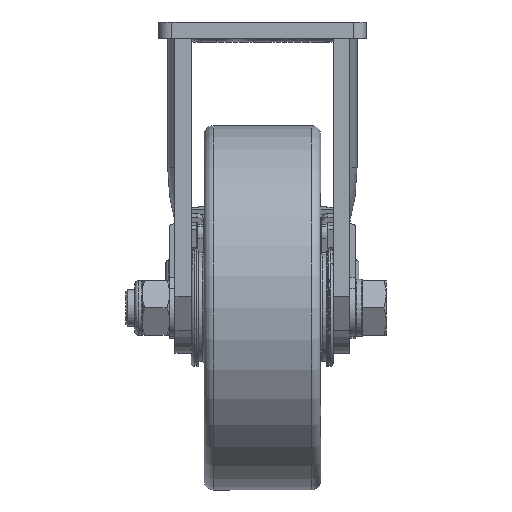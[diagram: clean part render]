
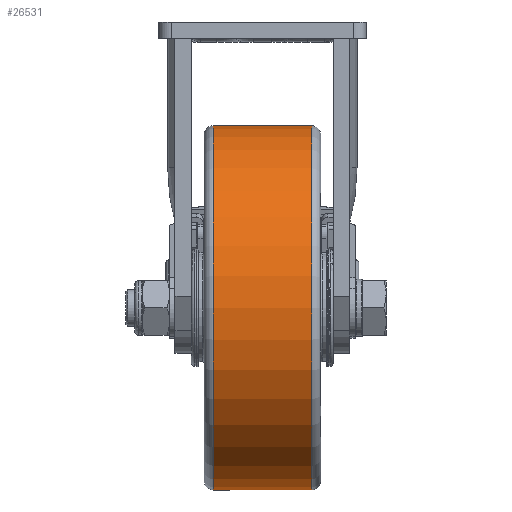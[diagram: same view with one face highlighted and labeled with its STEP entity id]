
A CAD part, left-side view. The second image highlights one B-rep face of the part: STEP entity #26531.
In plain terms, the highlighted cylindrical face has radius 100 mm (diameter 200 mm), a full revolution.
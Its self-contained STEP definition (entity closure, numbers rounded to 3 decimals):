
#6425=FACE_BOUND('',#8578,.T.);
#6886=FACE_OUTER_BOUND('',#8577,.T.);
#8577=EDGE_LOOP('',(#19082));
#8578=EDGE_LOOP('',(#19083));
#10315=CIRCLE('',#28506,100.);
#10316=CIRCLE('',#28508,100.);
#11420=VERTEX_POINT('',#40151);
#11421=VERTEX_POINT('',#40154);
#14315=EDGE_CURVE('',#11420,#11420,#10315,.T.);
#14316=EDGE_CURVE('',#11421,#11421,#10316,.T.);
#19082=ORIENTED_EDGE('',*,*,#14315,.T.);
#19083=ORIENTED_EDGE('',*,*,#14316,.F.);
#25952=CYLINDRICAL_SURFACE('',#28507,100.);
#26531=ADVANCED_FACE('',(#6886,#6425),#25952,.T.);
#28506=AXIS2_PLACEMENT_3D('',#40152,#31614,#31615);
#28507=AXIS2_PLACEMENT_3D('',#40153,#31616,#31617);
#28508=AXIS2_PLACEMENT_3D('',#40155,#31618,#31619);
#31614=DIRECTION('center_axis',(0.,1.,0.));
#31615=DIRECTION('ref_axis',(1.,0.,0.));
#31616=DIRECTION('center_axis',(0.,1.,0.));
#31617=DIRECTION('ref_axis',(0.,0.,
1.));
#31618=DIRECTION('center_axis',(0.,1.,0.));
#31619=DIRECTION('ref_axis',(1.,0.,0.));
#40151=CARTESIAN_POINT('',(0.,-27.,-52.5));
#40152=CARTESIAN_POINT('Origin',(0.,-27.,
-152.5));
#40153=CARTESIAN_POINT('Origin',(0.,0.,
-152.5));
#40154=CARTESIAN_POINT('',(0.,27.,-52.5));
#40155=CARTESIAN_POINT('Origin',(0.,27.,
-152.5));
